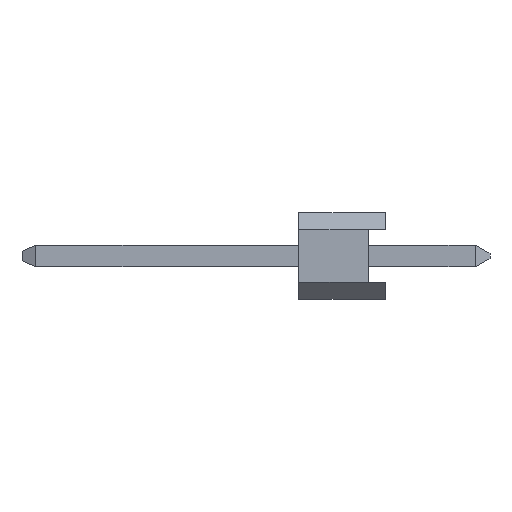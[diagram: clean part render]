
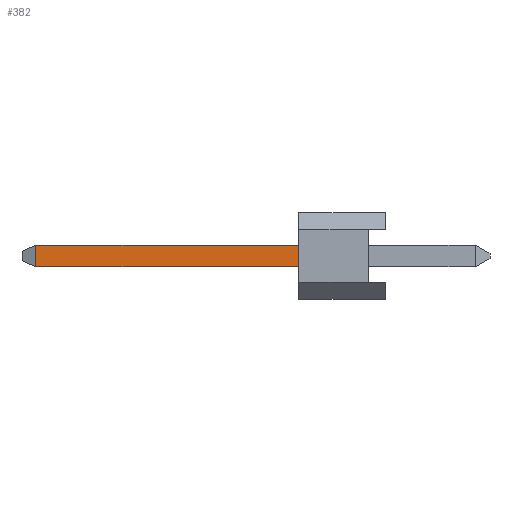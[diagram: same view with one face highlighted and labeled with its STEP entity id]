
A CAD part, left-side view. The second image highlights one B-rep face of the part: STEP entity #382.
In plain terms, the highlighted planar face has unit normal (-1, 0, 0).
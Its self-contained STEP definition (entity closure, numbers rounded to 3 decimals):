
#11 = CARTESIAN_POINT ( 'NONE',  ( -0.32, 10.22, -0.425 ) ) ;
#30 = FACE_OUTER_BOUND ( 'NONE', #247, .T. ) ;
#43 = CARTESIAN_POINT ( 'NONE',  ( -0.32, 10.62, -0.425 ) ) ;
#46 = EDGE_CURVE ( 'NONE', #153, #469, #144, .T. ) ;
#84 = VECTOR ( 'NONE', #677, 1000. ) ;
#96 = LINE ( 'NONE', #11, #492 ) ;
#99 = CARTESIAN_POINT ( 'NONE',  ( -0.32, 10.62, -0.425 ) ) ;
#104 = EDGE_CURVE ( 'NONE', #972, #529, #96, .T. ) ;
#144 = LINE ( 'NONE', #463, #540 ) ;
#153 = VERTEX_POINT ( 'NONE', #568 ) ;
#162 = EDGE_CURVE ( 'NONE', #972, #469, #225, .T. ) ;
#179 = DIRECTION ( 'NONE',  ( 0., 0., -1. ) ) ;
#225 = LINE ( 'NONE', #412, #646 ) ;
#239 = ORIENTED_EDGE ( 'NONE', *, *, #46, .T. ) ;
#247 = EDGE_LOOP ( 'NONE', ( #966, #997, #324, #239 ) ) ;
#251 = PLANE ( 'NONE',  #472 ) ;
#320 = EDGE_CURVE ( 'NONE', #529, #153, #738, .T. ) ;
#324 = ORIENTED_EDGE ( 'NONE', *, *, #320, .T. ) ;
#341 = DIRECTION ( 'NONE',  ( 0., 0., -1. ) ) ;
#382 = ADVANCED_FACE ( 'NONE', ( #30 ), #251, .F. ) ;
#401 = CARTESIAN_POINT ( 'NONE',  ( -0.32, 10.22, 0.215 ) ) ;
#412 = CARTESIAN_POINT ( 'NONE',  ( -0.32, 10.62, 0.215 ) ) ;
#463 = CARTESIAN_POINT ( 'NONE',  ( -0.32, 2.54, -0.425 ) ) ;
#469 = VERTEX_POINT ( 'NONE', #650 ) ;
#472 = AXIS2_PLACEMENT_3D ( 'NONE', #99, #887, #341 ) ;
#492 = VECTOR ( 'NONE', #179, 1000. ) ;
#529 = VERTEX_POINT ( 'NONE', #684 ) ;
#540 = VECTOR ( 'NONE', #917, 1000. ) ;
#568 = CARTESIAN_POINT ( 'NONE',  ( -0.32, 2.54, -0.425 ) ) ;
#646 = VECTOR ( 'NONE', #805, 1000. ) ;
#650 = CARTESIAN_POINT ( 'NONE',  ( -0.32, 2.54, 0.215 ) ) ;
#677 = DIRECTION ( 'NONE',  ( 0., -1., 0. ) ) ;
#684 = CARTESIAN_POINT ( 'NONE',  ( -0.32, 10.22, -0.425 ) ) ;
#738 = LINE ( 'NONE', #43, #84 ) ;
#805 = DIRECTION ( 'NONE',  ( 0., -1., 0. ) ) ;
#887 = DIRECTION ( 'NONE',  ( 1., 0., 0. ) ) ;
#917 = DIRECTION ( 'NONE',  ( 0., 0., 1. ) ) ;
#966 = ORIENTED_EDGE ( 'NONE', *, *, #162, .F. ) ;
#972 = VERTEX_POINT ( 'NONE', #401 ) ;
#997 = ORIENTED_EDGE ( 'NONE', *, *, #104, .T. ) ;
